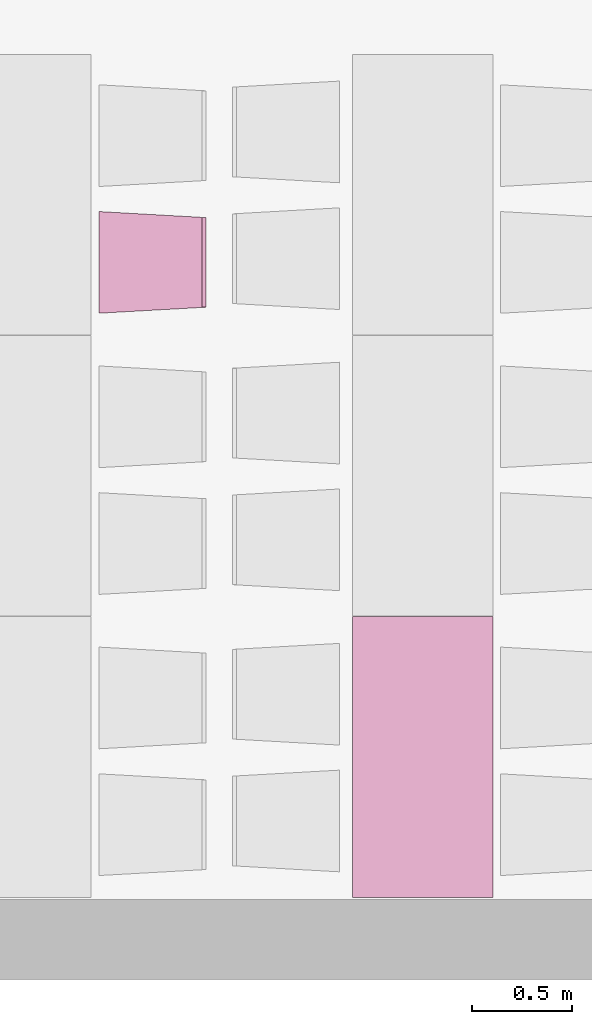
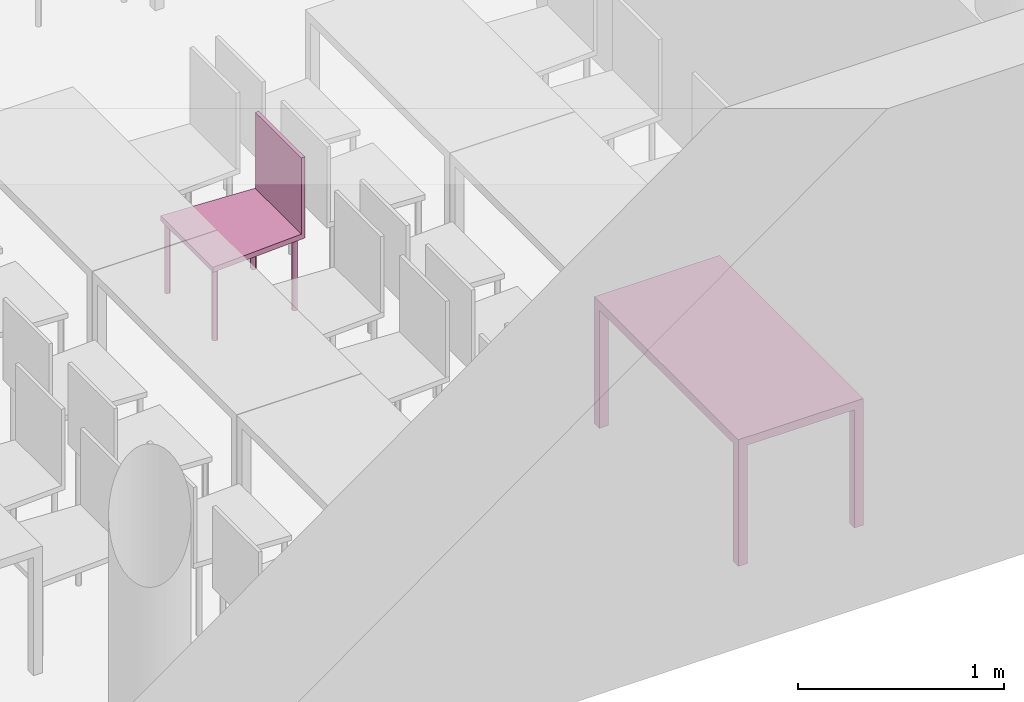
"""IFC4 building model written with IfcOpenShell, lengths in metres."""

from ifc_helpers import new_model, entity, si_unit, converted_unit, derived_unit, frame, origin, place, context, subcontext, project, spatial, faceted_brep, element, save


model = new_model("IFC4")

# Units and contexts
model_context = context("Model", 3, precision=1e-05, world=origin())
body_context = subcontext(model_context, "Body", "Model", "MODEL_VIEW")
ifc_project = project(units=[si_unit("LENGTHUNIT", "METRE"), si_unit("AREAUNIT", "SQUARE_METRE"), si_unit("VOLUMEUNIT", "CUBIC_METRE"), si_unit("MASSUNIT", "GRAM", prefix="KILO"), converted_unit("PLANEANGLEUNIT", "DEGREE", entity("IfcPlaneAngleMeasure", 0.0174532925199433), si_unit("PLANEANGLEUNIT", "RADIAN"), dimensions=[0, 0, 0, 0, 0, 0, 0]), derived_unit("THERMALTRANSMITTANCEUNIT", [(si_unit("POWERUNIT", "WATT"), 1), (si_unit("THERMODYNAMICTEMPERATUREUNIT", "KELVIN"), -1), (si_unit("LENGTHUNIT", "METRE"), -2)]), derived_unit("VOLUMETRICFLOWRATEUNIT", [(si_unit("LENGTHUNIT", "METRE"), 3), (converted_unit("TIMEUNIT", "hour", entity("IfcTimeMeasure", 3600.0), si_unit("TIMEUNIT", "SECOND"), dimensions=[0, 0, 1, 0, 0, 0, 0]), -1), (si_unit("LENGTHUNIT", "METRE"), -1)])], contexts=[model_context])

# Building, storeys
building_placement = place(None, origin())
building = spatial("IfcBuilding", under=ifc_project, at=building_placement, Name="HABITATGE PLURIFAMILIAR", CompositionType="ELEMENT")
storey_1_placement = place(building_placement, frame((0.0, 0.0, 3.35)))
storey_1 = spatial("IfcBuildingStorey", under=building, at=storey_1_placement, Name="PLANTA  ALTELL", CompositionType="ELEMENT", Elevation=3.35)
storey_2_placement = place(storey_1_placement, origin())
storey_2 = spatial("IfcBuildingStorey", under=storey_1, at=storey_2_placement, Name="NOU", CompositionType="PARTIAL")

# Furniture
furniture_1_placement = place(storey_2_placement, frame((404.051918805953, 13.2526455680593, 0.05)))
element("IfcFurniture", 1, at=furniture_1_placement, inside=storey_2, Name="Taula 140X80_PA", context=body_context, shape_type="Brep", body=[
    faceted_brep([(0.7, 0.0500000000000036, 0.0), (0.65, 0.0500000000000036, 0.0), (0.65, 0.0, 0.0), (0.7, 0.0, 0.0), (0.65, 0.0500000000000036, 0.7), (0.7, 0.0500000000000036, 0.7), (0.7, 0.0, 0.7), (0.65, 0.0, 0.7)], [[[0, 1, 2, 3]], [[4, 5, 6, 7]], [[1, 0, 5, 4]], [[2, 1, 4, 7]], [[3, 2, 7, 6]], [[0, 3, 6, 5]]], orient=[[False], [False], [False], [False], [False], [False]]),
    faceted_brep([(0.7, 1.39694592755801, 0.0), (0.65, 1.39694592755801, 0.0), (0.65, 1.34694592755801, 0.0), (0.7, 1.34694592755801, 0.0), (0.65, 1.39694592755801, 0.7), (0.7, 1.39694592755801, 0.7), (0.7, 1.34694592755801, 0.7), (0.65, 1.34694592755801, 0.7)], [[[0, 1, 2, 3]], [[4, 5, 6, 7]], [[1, 0, 5, 4]], [[2, 1, 4, 7]], [[3, 2, 7, 6]], [[0, 3, 6, 5]]], orient=[[False], [False], [False], [False], [False], [False]]),
    faceted_brep([(0.7, 1.396945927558, 0.7), (0.0, 1.396945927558, 0.7), (0.0, 0.0, 0.7), (0.7, 0.0, 0.7), (0.0, 1.396945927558, 0.75), (0.7, 1.396945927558, 0.75), (0.7, 0.0, 0.75), (0.0, 0.0, 0.75)], [[[0, 1, 2, 3]], [[4, 5, 6, 7]], [[1, 0, 5, 4]], [[2, 1, 4, 7]], [[3, 2, 7, 6]], [[0, 3, 6, 5]]], orient=[[False], [False], [False], [False], [False], [False]]),
    faceted_brep([(0.05, 0.05, 0.0), (0.0, 0.05, 0.0), (0.0, 0.0, 0.0), (0.05, 0.0, 0.0), (0.0, 0.05, 0.7), (0.05, 0.05, 0.7), (0.05, 0.0, 0.7), (0.0, 0.0, 0.7)], [[[0, 1, 2, 3]], [[4, 5, 6, 7]], [[1, 0, 5, 4]], [[2, 1, 4, 7]], [[3, 2, 7, 6]], [[0, 3, 6, 5]]], orient=[[False], [False], [False], [False], [False], [False]]),
    faceted_brep([(0.05, 1.396945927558, 0.0), (0.0, 1.396945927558, 0.0), (0.0, 1.346945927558, 0.0), (0.05, 1.346945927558, 0.0), (0.0, 1.396945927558, 0.7), (0.05, 1.396945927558, 0.7), (0.05, 1.346945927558, 0.7), (0.0, 1.346945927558, 0.7)], [[[0, 1, 2, 3]], [[4, 5, 6, 7]], [[1, 0, 5, 4]], [[2, 1, 4, 7]], [[3, 2, 7, 6]], [[0, 3, 6, 5]]], orient=[[False], [False], [False], [False], [False], [False]]),
])
furniture_2_placement = place(storey_2_placement, frame((402.789669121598, 16.1607290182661, 0.0499839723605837)))
element("IfcFurniture", 2, at=furniture_2_placement, inside=storey_2, Name="Cadira confident_PA", context=body_context, shape_type="Brep", body=[
    faceted_brep([(0.0250324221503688, 0.0391636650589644, 0.0), (0.0224394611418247, 0.0389254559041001, 0.0), (0.0199272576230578, 0.038240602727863, 0.0), (0.0175721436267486, 0.0371299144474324, 0.0), (0.0154456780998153, 0.0356271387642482, 0.0), (0.0136124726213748, 0.0337779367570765, 0.0), (0.0121282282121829, 0.0316384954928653, 0.0), (0.0110380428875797, 0.0292738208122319, 0.0), (0.010375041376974, 0.0267557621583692, 0.0), (0.0101593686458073, 0.0241608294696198, 0.0), (0.010397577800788, 0.0215678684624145, 0.0), (0.0110824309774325, 0.0190556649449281, 0.0), (0.0121931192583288, 0.0167005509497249, 0.0), (0.0136958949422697, 0.0145740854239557, 0.0), (0.0155450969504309, 0.0127408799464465, 0.0), (0.0176845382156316, 0.0112566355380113, 0.0), (0.0200492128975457, 0.010166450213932, 0.0), (0.0225672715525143, 0.00950344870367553, 0.0), (0.0251622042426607, 0.00928777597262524, 0.0), (0.0277551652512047, 0.00952598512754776, 0.0), (0.0302673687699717, 0.0102108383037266, 0.0), (0.0326224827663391, 0.0113215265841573, 0.0), (0.0347489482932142, 0.0128243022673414, 0.0), (0.0365821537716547, 0.0146735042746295, 0.0), (0.0380663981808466, 0.0168129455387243, 0.0), (0.0391565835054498, 0.019177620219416, 0.0), (0.0398195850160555, 0.0216956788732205, 0.0), (0.0400352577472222, 0.0242906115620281, 0.0), (0.0397970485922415, 0.0268835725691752, 0.0), (0.0391121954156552, 0.0293957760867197, 0.0), (0.0380015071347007, 0.0317508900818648, 0.0), (0.0364987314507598, 0.0338773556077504, 0.0), (0.0346495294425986, 0.0357105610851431, 0.0), (0.0325100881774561, 0.0371948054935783, 0.0), (0.030145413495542, 0.0382849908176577, 0.0), (0.0276273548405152, 0.0389479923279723, 0.0), (0.0250324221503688, 0.0391636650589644, 0.448281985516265), (0.0276273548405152, 0.0389479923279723, 0.448281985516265), (0.030145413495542, 0.0382849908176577, 0.448281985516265), (0.0325100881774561, 0.0371948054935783, 0.448281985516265), (0.0346495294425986, 0.0357105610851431, 0.448281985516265), (0.0364987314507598, 0.0338773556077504, 0.448281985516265), (0.0380015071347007, 0.0317508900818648, 0.448281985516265), (0.0391121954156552, 0.0293957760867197, 0.448281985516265), (0.0397970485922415, 0.0268835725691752, 0.448281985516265), (0.0400352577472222, 0.0242906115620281, 0.448281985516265), (0.0398195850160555, 0.0216956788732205, 0.448281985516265), (0.0391565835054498, 0.019177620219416, 0.448281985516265), (0.0380663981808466, 0.0168129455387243, 0.448281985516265), (0.0365821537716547, 0.0146735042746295, 0.448281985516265), (0.0347489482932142, 0.0128243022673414, 0.448281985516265), (0.0326224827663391, 0.0113215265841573, 0.448281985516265), (0.0302673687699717, 0.0102108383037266, 0.448281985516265), (0.0277551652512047, 0.00952598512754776, 0.448281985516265), (0.0251622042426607, 0.00928777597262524, 0.448281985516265), (0.0225672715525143, 0.00950344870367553, 0.448281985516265), (0.0200492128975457, 0.010166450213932, 0.448281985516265), (0.0176845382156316, 0.0112566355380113, 0.448281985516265), (0.0155450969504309, 0.0127408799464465, 0.448281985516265), (0.0136958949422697, 0.0145740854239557, 0.448281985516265), (0.0121931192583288, 0.0167005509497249, 0.448281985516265), (0.0110824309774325, 0.0190556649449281, 0.448281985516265), (0.010397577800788, 0.0215678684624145, 0.448281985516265), (0.0101593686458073, 0.0241608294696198, 0.448281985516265), (0.010375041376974, 0.0267557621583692, 0.448281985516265), (0.0110380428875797, 0.0292738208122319, 0.448281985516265), (0.0121282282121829, 0.0316384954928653, 0.448281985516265), (0.0136124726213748, 0.0337779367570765, 0.448281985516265), (0.0154456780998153, 0.0356271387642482, 0.448281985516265), (0.0175721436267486, 0.0371299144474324, 0.448281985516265), (0.0199272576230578, 0.038240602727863, 0.448281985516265), (0.0224394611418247, 0.0389254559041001, 0.448281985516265)], [[[0, 1, 2, 3, 4, 5, 6, 7, 8, 9, 10, 11, 12, 13, 14, 15, 16, 17, 18, 19, 20, 21, 22, 23, 24, 25, 26, 27, 28, 29, 30, 31, 32, 33, 34, 35]], [[36, 37, 38, 39, 40, 41, 42, 43, 44, 45, 46, 47, 48, 49, 50, 51, 52, 53, 54, 55, 56, 57, 58, 59, 60, 61, 62, 63, 64, 65, 66, 67, 68, 69, 70, 71]], [[35, 37, 36, 0]], [[34, 38, 37, 35]], [[33, 39, 38, 34]], [[32, 40, 39, 33]], [[31, 41, 40, 32]], [[30, 42, 41, 31]], [[29, 43, 42, 30]], [[28, 44, 43, 29]], [[27, 45, 44, 28]], [[26, 46, 45, 27]], [[25, 47, 46, 26]], [[24, 48, 47, 25]], [[23, 49, 48, 24]], [[22, 50, 49, 23]], [[21, 51, 50, 22]], [[20, 52, 51, 21]], [[19, 53, 52, 20]], [[18, 54, 53, 19]], [[17, 55, 54, 18]], [[16, 56, 55, 17]], [[15, 57, 56, 16]], [[14, 58, 57, 15]], [[13, 59, 58, 14]], [[12, 60, 59, 13]], [[11, 61, 60, 12]], [[10, 62, 61, 11]], [[9, 63, 62, 10]], [[8, 64, 63, 9]], [[7, 65, 64, 8]], [[6, 66, 65, 7]], [[5, 67, 66, 6]], [[4, 68, 67, 5]], [[3, 69, 68, 4]], [[2, 70, 69, 3]], [[1, 71, 70, 2]], [[0, 36, 71, 1]]], orient=[[False], [False], [False], [False], [False], [False], [False], [False], [False], [False], [False], [False], [False], [False], [False], [False], [False], [False], [False], [False], [False], [False], [False], [False], [False], [False], [False], [False], [False], [False], [False], [False], [False], [False], [False], [False], [False], [False]]),
    faceted_brep([(0.487439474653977, 0.0668016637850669, 0.0), (0.484846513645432, 0.0665634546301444, 0.0), (0.482334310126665, 0.0658786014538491, 0.0), (0.479979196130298, 0.0647679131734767, 0.0), (0.477852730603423, 0.0632651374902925, 0.0), (0.476019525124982, 0.0614159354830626, 0.0), (0.474535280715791, 0.0592764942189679, 0.0), (0.473445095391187, 0.056911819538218, 0.0), (0.472782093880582, 0.0543937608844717, 0.0), (0.472566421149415, 0.0517988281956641, 0.0), (0.472804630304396, 0.0492058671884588, 0.0), (0.473489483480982, 0.0466936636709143, 0.0), (0.474600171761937, 0.0443385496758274, 0.0), (0.476102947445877, 0.0422120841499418, 0.0), (0.477952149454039, 0.0403788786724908, 0.0), (0.480091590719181, 0.0388946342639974, 0.0), (0.482456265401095, 0.0378044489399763, 0.0), (0.484974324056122, 0.0371414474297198, 0.0), (0.487569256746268, 0.0369257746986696, 0.0), (0.490162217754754, 0.0371639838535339, 0.0), (0.492674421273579, 0.0378488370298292, 0.0), (0.495029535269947, 0.0389595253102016, 0.0), (0.497156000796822, 0.0404623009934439, 0.0), (0.498989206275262, 0.0423115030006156, 0.0), (0.500473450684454, 0.0444509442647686, 0.0), (0.501563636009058, 0.0468156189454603, 0.0), (0.502226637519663, 0.0493336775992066, 0.0), (0.50244231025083, 0.0519286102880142, 0.0), (0.502204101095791, 0.0545215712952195, 0.0), (0.501519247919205, 0.057033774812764, 0.0), (0.500408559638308, 0.0593888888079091, 0.0), (0.498905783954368, 0.0615153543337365, 0.0), (0.497056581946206, 0.0633485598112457, 0.0), (0.494917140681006, 0.0648328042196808, 0.0), (0.492552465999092, 0.065922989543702, 0.0), (0.490034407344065, 0.0665859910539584, 0.0), (0.487439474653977, 0.0668016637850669, 0.448281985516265), (0.490034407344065, 0.0665859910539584, 0.448281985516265), (0.492552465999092, 0.065922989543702, 0.448281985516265), (0.494917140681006, 0.0648328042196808, 0.448281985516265), (0.497056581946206, 0.0633485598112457, 0.448281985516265), (0.498905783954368, 0.0615153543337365, 0.448281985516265), (0.500408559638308, 0.0593888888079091, 0.448281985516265), (0.501519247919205, 0.057033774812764, 0.448281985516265), (0.502204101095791, 0.0545215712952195, 0.448281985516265), (0.50244231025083, 0.0519286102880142, 0.448281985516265), (0.502226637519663, 0.0493336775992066, 0.448281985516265), (0.501563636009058, 0.0468156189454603, 0.448281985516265), (0.500473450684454, 0.0444509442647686, 0.448281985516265), (0.498989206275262, 0.0423115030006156, 0.448281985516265), (0.497156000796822, 0.0404623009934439, 0.448281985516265), (0.495029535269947, 0.0389595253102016, 0.448281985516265), (0.492674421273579, 0.0378488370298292, 0.448281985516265), (0.490162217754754, 0.0371639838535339, 0.448281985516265), (0.487569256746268, 0.0369257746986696, 0.448281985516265), (0.484974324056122, 0.0371414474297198, 0.448281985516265), (0.482456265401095, 0.0378044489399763, 0.448281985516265), (0.480091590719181, 0.0388946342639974, 0.448281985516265), (0.477952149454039, 0.0403788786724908, 0.448281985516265), (0.476102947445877, 0.0422120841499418, 0.448281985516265), (0.474600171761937, 0.0443385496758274, 0.448281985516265), (0.473489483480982, 0.0466936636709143, 0.448281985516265), (0.472804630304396, 0.0492058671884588, 0.448281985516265), (0.472566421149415, 0.0517988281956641, 0.448281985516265), (0.472782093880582, 0.0543937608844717, 0.448281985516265), (0.473445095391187, 0.056911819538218, 0.448281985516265), (0.474535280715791, 0.0592764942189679, 0.448281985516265), (0.476019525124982, 0.0614159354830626, 0.448281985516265), (0.477852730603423, 0.0632651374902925, 0.448281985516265), (0.479979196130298, 0.0647679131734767, 0.448281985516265), (0.482334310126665, 0.0658786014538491, 0.448281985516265), (0.484846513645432, 0.0665634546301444, 0.448281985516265)], [[[0, 1, 2, 3, 4, 5, 6, 7, 8, 9, 10, 11, 12, 13, 14, 15, 16, 17, 18, 19, 20, 21, 22, 23, 24, 25, 26, 27, 28, 29, 30, 31, 32, 33, 34, 35]], [[36, 37, 38, 39, 40, 41, 42, 43, 44, 45, 46, 47, 48, 49, 50, 51, 52, 53, 54, 55, 56, 57, 58, 59, 60, 61, 62, 63, 64, 65, 66, 67, 68, 69, 70, 71]], [[35, 37, 36, 0]], [[34, 38, 37, 35]], [[33, 39, 38, 34]], [[32, 40, 39, 33]], [[31, 41, 40, 32]], [[30, 42, 41, 31]], [[29, 43, 42, 30]], [[28, 44, 43, 29]], [[27, 45, 44, 28]], [[26, 46, 45, 27]], [[25, 47, 46, 26]], [[24, 48, 47, 25]], [[23, 49, 48, 24]], [[22, 50, 49, 23]], [[21, 51, 50, 22]], [[20, 52, 51, 21]], [[19, 53, 52, 20]], [[18, 54, 53, 19]], [[17, 55, 54, 18]], [[16, 56, 55, 17]], [[15, 57, 56, 16]], [[14, 58, 57, 15]], [[13, 59, 58, 14]], [[12, 60, 59, 13]], [[11, 61, 60, 12]], [[10, 62, 61, 11]], [[9, 63, 62, 10]], [[8, 64, 63, 9]], [[7, 65, 64, 8]], [[6, 66, 65, 7]], [[5, 67, 66, 6]], [[4, 68, 67, 5]], [[3, 69, 68, 4]], [[2, 70, 69, 3]], [[1, 71, 70, 2]], [[0, 36, 71, 1]]], orient=[[False], [False], [False], [False], [False], [False], [False], [False], [False], [False], [False], [False], [False], [False], [False], [False], [False], [False], [False], [False], [False], [False], [False], [False], [False], [False], [False], [False], [False], [False], [False], [False], [False], [False], [False], [False], [False], [False]]),
    faceted_brep([(0.0250324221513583, 0.499163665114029, 0.0), (0.0224394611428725, 0.498925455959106, 0.0), (0.0199272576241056, 0.498240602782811, 0.0), (0.0175721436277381, 0.497129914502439, 0.0), (0.0154456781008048, 0.495627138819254, 0.0), (0.0136124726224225, 0.493777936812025, 0.0), (0.0121282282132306, 0.491638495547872, 0.0), (0.0110380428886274, 0.489273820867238, 0.0), (0.0103750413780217, 0.486755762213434, 0.0), (0.0101593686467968, 0.484160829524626, 0.0), (0.0103975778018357, 0.481567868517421, 0.0), (0.0110824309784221, 0.479055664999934, 0.0), (0.0121931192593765, 0.476700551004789, 0.0), (0.0136958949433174, 0.474574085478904, 0.0), (0.0155450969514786, 0.472740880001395, 0.0), (0.0176845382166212, 0.471256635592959, 0.0), (0.0200492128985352, 0.470166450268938, 0.0), (0.022567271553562, 0.469503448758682, 0.0), (0.0251622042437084, 0.469287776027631, 0.0), (0.0277551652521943, 0.469525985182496, 0.0), (0.0302673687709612, 0.470210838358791, 0.0), (0.0326224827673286, 0.471321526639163, 0.0), (0.0347489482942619, 0.472824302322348, 0.0), (0.0365821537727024, 0.474673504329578, 0.0), (0.0380663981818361, 0.476812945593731, 0.0), (0.0391565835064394, 0.479177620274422, 0.0), (0.039819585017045, 0.481695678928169, 0.0), (0.0400352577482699, 0.484290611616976, 0.0), (0.039797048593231, 0.486883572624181, 0.0), (0.0391121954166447, 0.489395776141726, 0.0), (0.0380015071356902, 0.491750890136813, 0.0), (0.0364987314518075, 0.493877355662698, 0.0), (0.0346495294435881, 0.495710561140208, 0.0), (0.0325100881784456, 0.497194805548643, 0.0), (0.0301454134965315, 0.498284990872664, 0.0), (0.0276273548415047, 0.49894799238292, 0.0), (0.0250324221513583, 0.499163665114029, 0.448281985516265), (0.0276273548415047, 0.49894799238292, 0.448281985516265), (0.0301454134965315, 0.498284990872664, 0.448281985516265), (0.0325100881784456, 0.497194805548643, 0.448281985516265), (0.0346495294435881, 0.495710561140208, 0.448281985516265), (0.0364987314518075, 0.493877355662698, 0.448281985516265), (0.0380015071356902, 0.491750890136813, 0.448281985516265), (0.0391121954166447, 0.489395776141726, 0.448281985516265), (0.039797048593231, 0.486883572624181, 0.448281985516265), (0.0400352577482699, 0.484290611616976, 0.448281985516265), (0.039819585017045, 0.481695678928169, 0.448281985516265), (0.0391565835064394, 0.479177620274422, 0.448281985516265), (0.0380663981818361, 0.476812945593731, 0.448281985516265), (0.0365821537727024, 0.474673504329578, 0.448281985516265), (0.0347489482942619, 0.472824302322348, 0.448281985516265), (0.0326224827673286, 0.471321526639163, 0.448281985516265), (0.0302673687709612, 0.470210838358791, 0.448281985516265), (0.0277551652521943, 0.469525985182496, 0.448281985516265), (0.0251622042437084, 0.469287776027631, 0.448281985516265), (0.022567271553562, 0.469503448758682, 0.448281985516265), (0.0200492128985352, 0.470166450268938, 0.448281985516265), (0.0176845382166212, 0.471256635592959, 0.448281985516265), (0.0155450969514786, 0.472740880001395, 0.448281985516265), (0.0136958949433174, 0.474574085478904, 0.448281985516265), (0.0121931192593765, 0.476700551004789, 0.448281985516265), (0.0110824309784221, 0.479055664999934, 0.448281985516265), (0.0103975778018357, 0.481567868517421, 0.448281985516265), (0.0101593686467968, 0.484160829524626, 0.448281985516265), (0.0103750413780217, 0.486755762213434, 0.448281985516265), (0.0110380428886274, 0.489273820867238, 0.448281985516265), (0.0121282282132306, 0.491638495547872, 0.448281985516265), (0.0136124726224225, 0.493777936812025, 0.448281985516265), (0.0154456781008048, 0.495627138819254, 0.448281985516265), (0.0175721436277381, 0.497129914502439, 0.448281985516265), (0.0199272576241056, 0.498240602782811, 0.448281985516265), (0.0224394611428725, 0.498925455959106, 0.448281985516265)], [[[0, 1, 2, 3, 4, 5, 6, 7, 8, 9, 10, 11, 12, 13, 14, 15, 16, 17, 18, 19, 20, 21, 22, 23, 24, 25, 26, 27, 28, 29, 30, 31, 32, 33, 34, 35]], [[36, 37, 38, 39, 40, 41, 42, 43, 44, 45, 46, 47, 48, 49, 50, 51, 52, 53, 54, 55, 56, 57, 58, 59, 60, 61, 62, 63, 64, 65, 66, 67, 68, 69, 70, 71]], [[35, 37, 36, 0]], [[34, 38, 37, 35]], [[33, 39, 38, 34]], [[32, 40, 39, 33]], [[31, 41, 40, 32]], [[30, 42, 41, 31]], [[29, 43, 42, 30]], [[28, 44, 43, 29]], [[27, 45, 44, 28]], [[26, 46, 45, 27]], [[25, 47, 46, 26]], [[24, 48, 47, 25]], [[23, 49, 48, 24]], [[22, 50, 49, 23]], [[21, 51, 50, 22]], [[20, 52, 51, 21]], [[19, 53, 52, 20]], [[18, 54, 53, 19]], [[17, 55, 54, 18]], [[16, 56, 55, 17]], [[15, 57, 56, 16]], [[14, 58, 57, 15]], [[13, 59, 58, 14]], [[12, 60, 59, 13]], [[11, 61, 60, 12]], [[10, 62, 61, 11]], [[9, 63, 62, 10]], [[8, 64, 63, 9]], [[7, 65, 64, 8]], [[6, 66, 65, 7]], [[5, 67, 66, 6]], [[4, 68, 67, 5]], [[3, 69, 68, 4]], [[2, 70, 69, 3]], [[1, 71, 70, 2]], [[0, 36, 71, 1]]], orient=[[False], [False], [False], [False], [False], [False], [False], [False], [False], [False], [False], [False], [False], [False], [False], [False], [False], [False], [False], [False], [False], [False], [False], [False], [False], [False], [False], [False], [False], [False], [False], [False], [False], [False], [False], [False], [False], [False]]),
    faceted_brep([(0.48743947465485, 0.466801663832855, 0.0), (0.484846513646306, 0.466563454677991, 0.0), (0.482334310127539, 0.465878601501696, 0.0), (0.479979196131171, 0.464767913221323, 0.0), (0.477852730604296, 0.463265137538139, 0.0), (0.476019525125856, 0.461415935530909, 0.0), (0.474535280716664, 0.459276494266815, 0.0), (0.47344509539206, 0.456911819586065, 0.0), (0.472782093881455, 0.454393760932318, 0.0), (0.472566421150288, 0.451798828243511, 0.0), (0.472804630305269, 0.449205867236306, 0.0), (0.473489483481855, 0.446693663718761, 0.0), (0.47460017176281, 0.444338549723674, 0.0), (0.47610294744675, 0.442212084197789, 0.0), (0.477952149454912, 0.440378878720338, 0.0), (0.480091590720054, 0.438894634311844, 0.0), (0.482456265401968, 0.437804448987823, 0.0), (0.484974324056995, 0.437141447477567, 0.0), (0.487569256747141, 0.436925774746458, 0.0), (0.490162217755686, 0.437163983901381, 0.0), (0.492674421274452, 0.437848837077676, 0.0), (0.495029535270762, 0.438959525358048, 0.0), (0.497156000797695, 0.440462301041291, 0.0), (0.498989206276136, 0.442311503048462, 0.0), (0.500473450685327, 0.444450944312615, 0.0), (0.501563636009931, 0.446815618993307, 0.0), (0.502226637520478, 0.449333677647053, 0.0), (0.502442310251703, 0.451928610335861, 0.0), (0.502204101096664, 0.454521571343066, 0.0), (0.501519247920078, 0.457033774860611, 0.0), (0.500408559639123, 0.459388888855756, 0.0), (0.498905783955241, 0.461515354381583, 0.0), (0.497056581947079, 0.463348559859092, 0.0), (0.494917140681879, 0.464832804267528, 0.0), (0.492552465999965, 0.465922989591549, 0.0), (0.490034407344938, 0.466585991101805, 0.0), (0.48743947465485, 0.466801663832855, 0.448281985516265), (0.490034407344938, 0.466585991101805, 0.448281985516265), (0.492552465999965, 0.465922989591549, 0.448281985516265), (0.494917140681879, 0.464832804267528, 0.448281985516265), (0.497056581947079, 0.463348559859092, 0.448281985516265), (0.498905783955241, 0.461515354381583, 0.448281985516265), (0.500408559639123, 0.459388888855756, 0.448281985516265), (0.501519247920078, 0.457033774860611, 0.448281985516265), (0.502204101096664, 0.454521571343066, 0.448281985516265), (0.502442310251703, 0.451928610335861, 0.448281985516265), (0.502226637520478, 0.449333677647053, 0.448281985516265), (0.501563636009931, 0.446815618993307, 0.448281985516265), (0.500473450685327, 0.444450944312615, 0.448281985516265), (0.498989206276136, 0.442311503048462, 0.448281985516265), (0.497156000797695, 0.440462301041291, 0.448281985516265), (0.495029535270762, 0.438959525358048, 0.448281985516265), (0.492674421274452, 0.437848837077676, 0.448281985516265), (0.490162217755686, 0.437163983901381, 0.448281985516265), (0.487569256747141, 0.436925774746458, 0.448281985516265), (0.484974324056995, 0.437141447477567, 0.448281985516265), (0.482456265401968, 0.437804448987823, 0.448281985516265), (0.480091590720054, 0.438894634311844, 0.448281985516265), (0.477952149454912, 0.440378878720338, 0.448281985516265), (0.47610294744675, 0.442212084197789, 0.448281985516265), (0.47460017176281, 0.444338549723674, 0.448281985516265), (0.473489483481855, 0.446693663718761, 0.448281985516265), (0.472804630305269, 0.449205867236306, 0.448281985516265), (0.472566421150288, 0.451798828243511, 0.448281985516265), (0.472782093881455, 0.454393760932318, 0.448281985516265), (0.47344509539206, 0.456911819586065, 0.448281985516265), (0.474535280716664, 0.459276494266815, 0.448281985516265), (0.476019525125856, 0.461415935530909, 0.448281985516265), (0.477852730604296, 0.463265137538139, 0.448281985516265), (0.479979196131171, 0.464767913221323, 0.448281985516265), (0.482334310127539, 0.465878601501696, 0.448281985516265), (0.484846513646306, 0.466563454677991, 0.448281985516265)], [[[0, 1, 2, 3, 4, 5, 6, 7, 8, 9, 10, 11, 12, 13, 14, 15, 16, 17, 18, 19, 20, 21, 22, 23, 24, 25, 26, 27, 28, 29, 30, 31, 32, 33, 34, 35]], [[36, 37, 38, 39, 40, 41, 42, 43, 44, 45, 46, 47, 48, 49, 50, 51, 52, 53, 54, 55, 56, 57, 58, 59, 60, 61, 62, 63, 64, 65, 66, 67, 68, 69, 70, 71]], [[35, 37, 36, 0]], [[34, 38, 37, 35]], [[33, 39, 38, 34]], [[32, 40, 39, 33]], [[31, 41, 40, 32]], [[30, 42, 41, 31]], [[29, 43, 42, 30]], [[28, 44, 43, 29]], [[27, 45, 44, 28]], [[26, 46, 45, 27]], [[25, 47, 46, 26]], [[24, 48, 47, 25]], [[23, 49, 48, 24]], [[22, 50, 49, 23]], [[21, 51, 50, 22]], [[20, 52, 51, 21]], [[19, 53, 52, 20]], [[18, 54, 53, 19]], [[17, 55, 54, 18]], [[16, 56, 55, 17]], [[15, 57, 56, 16]], [[14, 58, 57, 15]], [[13, 59, 58, 14]], [[12, 60, 59, 13]], [[11, 61, 60, 12]], [[10, 62, 61, 11]], [[9, 63, 62, 10]], [[8, 64, 63, 9]], [[7, 65, 64, 8]], [[6, 66, 65, 7]], [[5, 67, 66, 6]], [[4, 68, 67, 5]], [[3, 69, 68, 4]], [[2, 70, 69, 3]], [[1, 71, 70, 2]], [[0, 36, 71, 1]]], orient=[[False], [False], [False], [False], [False], [False], [False], [False], [False], [False], [False], [False], [False], [False], [False], [False], [False], [False], [False], [False], [False], [False], [False], [False], [False], [False], [False], [False], [False], [False], [False], [False], [False], [False], [False], [False], [False], [False]]),
    faceted_brep([(0.532607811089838, 0.476514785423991, 0.418281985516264), (0.0, 0.506514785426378, 0.418281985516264), (0.0, 0.0, 0.418281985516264), (0.532607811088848, 0.0300000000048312, 0.418281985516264), (0.0, 0.506514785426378, 0.448281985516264), (0.532607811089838, 0.476514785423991, 0.448281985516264), (0.532607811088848, 0.0300000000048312, 0.448281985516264), (0.0, 0.0, 0.448281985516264)], [[[0, 1, 2, 3]], [[4, 5, 6, 7]], [[1, 0, 5, 4]], [[2, 1, 4, 7]], [[3, 2, 7, 6]], [[0, 3, 6, 5]]], orient=[[False], [False], [False], [False], [False], [False]]),
    faceted_brep([(0.512607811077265, 0.476514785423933, 0.448281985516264), (0.512607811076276, 0.0300000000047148, 0.448281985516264), (0.53260781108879, 0.0300000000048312, 0.448281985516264), (0.53260781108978, 0.476514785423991, 0.448281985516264), (0.512607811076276, 0.0300000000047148, 0.898281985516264), (0.512607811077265, 0.476514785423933, 0.898281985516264), (0.53260781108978, 0.476514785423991, 0.898281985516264), (0.53260781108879, 0.0300000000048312, 0.898281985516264)], [[[0, 1, 2, 3]], [[4, 5, 6, 7]], [[1, 0, 5, 4]], [[2, 1, 4, 7]], [[3, 2, 7, 6]], [[0, 3, 6, 5]]], orient=[[False], [False], [False], [False], [False], [False]]),
])

save(model, "model.ifc")
